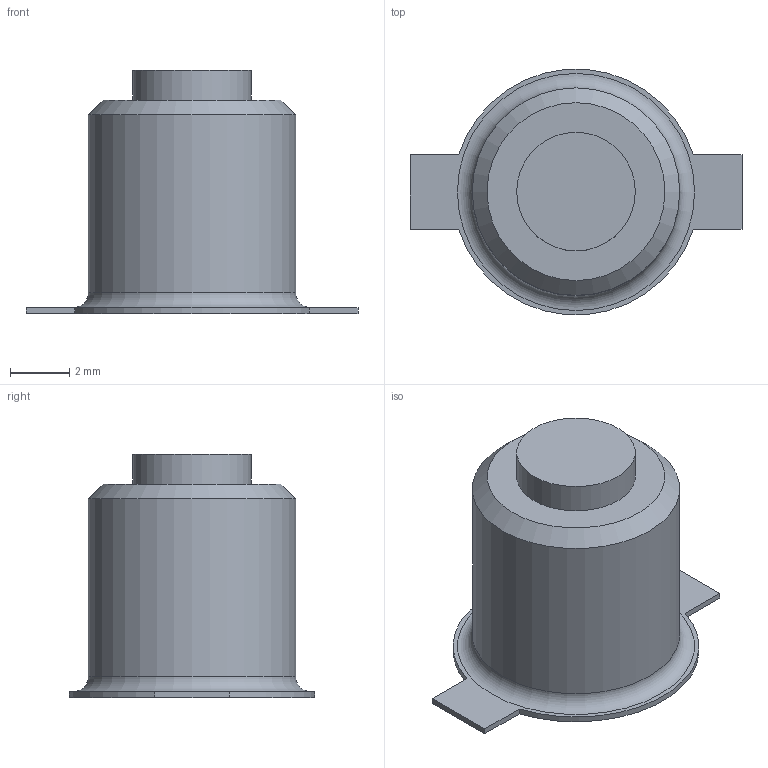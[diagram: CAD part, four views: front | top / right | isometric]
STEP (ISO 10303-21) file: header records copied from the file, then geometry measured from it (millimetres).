
FILE_DESCRIPTION(/* description */ ('STEP AP242 Edition 2','CAx-IF Rec.Pracs.---Representation and Presentation of Product Manufacturing Information (PMI)---4.0---2014-10-13','CAx-IF Rec.Pracs.---3D Tessellated Geometry---0.4---2014-09-14','2;1','CAx-IF Rec.Pracs.---User Defined Attributes---1.5---2016-08-15'),/* implementation_level */ '2;1');
FILE_NAME(/* name */ 'Assembly 1 - SW-TH_EC11E18244A5~SW-TH_EC11E18244A5-L11.7-W12.0-H24.5-P2.5-LS14.5~nxQB (6)',/* time_stamp */ '2026-04-02T09:55:29Z',/* author */ (''),/* organization */ (''),/* preprocessor_version */ 'ST-DEVELOPER v20',/* originating_system */ 'ONSHAPE BY PTC INC, 1.212',/* authorisation */ ' ');
FILE_SCHEMA (('AP242_MANAGED_MODEL_BASED_3D_ENGINEERING_MIM_LF { 1 0 10303 442 3 1 4 }'));
Length unit declared in the file: metre
Products named in the file (1): SW-TH_EC11E18244A5~SW-TH_EC11E18244A5-L11.7-W12.0-H24.5-P2.5-LS14.5~n
xQB
Bounding box: 11.2 x 8.27 x 8.2 mm (x, y, z)
Volume: 292.9 mm3; surface area: 285 mm2
Topology: 1 solids, 1 shells, 16 faces, 34 edges, 22 vertices
Faces by surface type: plane 10, cylinder 4, torus 1, cone 1
Full cylindrical faces by diameter (mm): 4 x1, 7 x1
Entity records: 548 total; most frequent: DIRECTION 74, CARTESIAN_POINT 69, ORIENTED_EDGE 60, EDGE_CURVE 30, AXIS2_PLACEMENT_3D 27, VERTEX_POINT 22, EDGE_LOOP 22, FACE_BOUND 22
